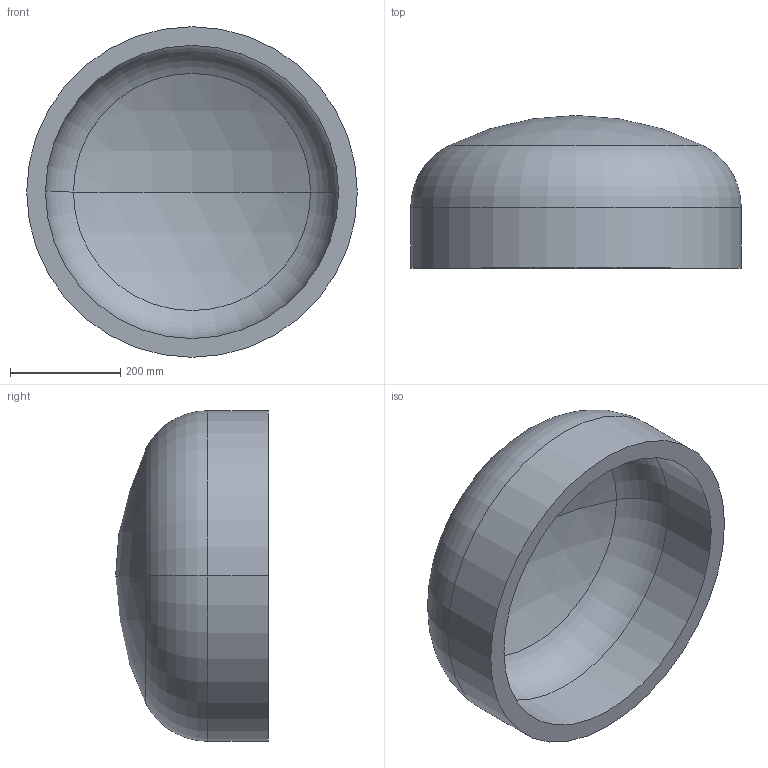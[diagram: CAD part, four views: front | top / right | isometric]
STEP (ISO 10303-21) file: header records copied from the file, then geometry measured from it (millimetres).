
FILE_DESCRIPTION (( 'STEP AP203' ), '1' );
FILE_NAME ('DIN 28013 Korbbogenform_-_Boden DIN 28013 - 600 x 110 - I - s=34.step', '2016-07-01T07:59:48', ( '' ), ( '' ), 'SwSTEP 2.0', 'SolidWorks 2013', '' );
FILE_SCHEMA (( 'CONFIG_CONTROL_DESIGN' ));
Length unit declared in the file: millimetre
Products named in the file (1): DIN 28013 Korbbogenform_-_Boden DIN 28013 - 600 x 110 - I - s=34
Bounding box: 600 x 277.2 x 600 mm (x, y, z)
Volume: 19023247.5 mm3; surface area: 1181892.3 mm2
Topology: 1 solids, 1 shells, 13 faces, 24 edges, 14 vertices
Faces by surface type: torus 4, cylinder 4, sphere 4, plane 1
Entity records: 407 total; most frequent: DIRECTION 72, CARTESIAN_POINT 52, ORIENTED_EDGE 48, AXIS2_PLACEMENT_3D 34, EDGE_CURVE 24, CIRCLE 20, VERTEX_POINT 14, EDGE_LOOP 14
